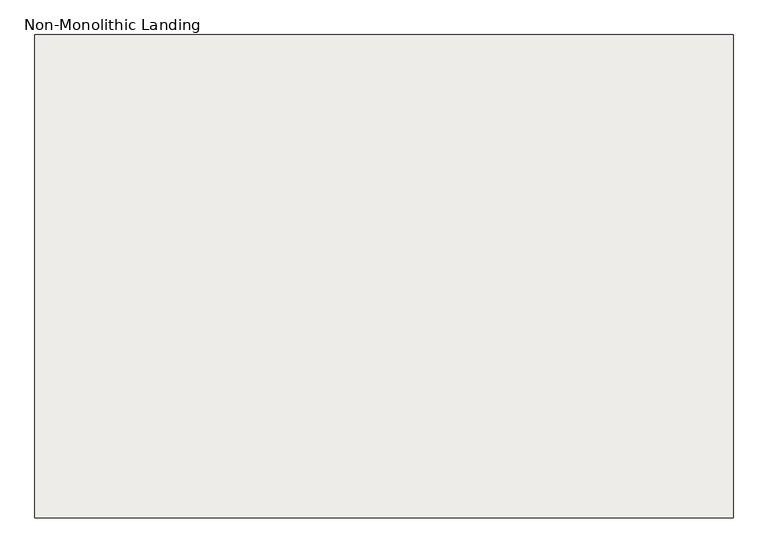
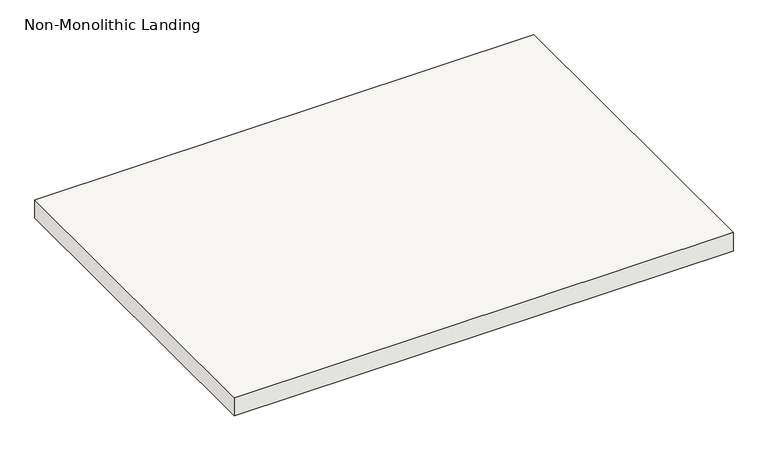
"""IFC4 building model written with IfcOpenShell, lengths in millimetres: slab geometry, Non-Monolithic Landing."""

import ifcopenshell
import ifcopenshell.guid

model = None  # the IFC model being written
_history = None  # IfcOwnerHistory: only IFC2X3 demands one
_inside = {}  # id of a spatial element -> (the spatial element, [elements in it])
_under = {}  # id of a project, library or spatial element -> (it, [spatial elements below it])
_declared = {}  # id of a project -> (the project, [libraries it declares])
_typed = {}  # id of a type object -> (the type object, [elements of that type])
_made_of = {}  # id of a material, layer set ... -> (it, [elements and type objects made of it])


def new_model(schema):
    """Start an empty IFC model of exactly this schema.

    Asked for "IFC4X3", IfcOpenShell would pick the latest addendum, in which some entities
    have other attributes; the version numbers below select the first issue.
    IFC2X3 requires an IfcOwnerHistory on every rooted entity: one is made here for all.
    """
    global model, _history
    if schema == "IFC4X3":
        model = ifcopenshell.file(schema_version=(4, 3, 0, 0))
    else:
        model = ifcopenshell.file(schema=schema)
    _inside.clear()
    _under.clear()
    _declared.clear()
    _typed.clear()
    _made_of.clear()
    _history = None
    if model.schema == "IFC2X3":
        org = make("IfcOrganization", Name="unknown")
        user = make(
            "IfcPersonAndOrganization",
            ThePerson=make("IfcPerson", FamilyName="unknown"),
            TheOrganization=org,
        )
        app = make(
            "IfcApplication",
            ApplicationDeveloper=org,
            Version="unknown",
            ApplicationFullName="unknown",
            ApplicationIdentifier="unknown",
        )
        _history = make(
            "IfcOwnerHistory",
            OwningUser=user,
            OwningApplication=app,
            ChangeAction="ADDED",
            CreationDate=0,
        )
    return model


def make(cls, **values):
    """One entity of the class cls with the attributes given. An attribute that is None is left unset."""
    return model.create_entity(
        cls, **{name: value for name, value in values.items() if value is not None}
    )


def rooted(cls, **values):
    """An entity with a GlobalId (a new one), such as an element, a storey or a relation."""
    return make(cls, GlobalId=ifcopenshell.guid.new(), OwnerHistory=_history, **values)


def si_unit(unit_type, name, prefix=None):
    """IfcSIUnit, for example si_unit("LENGTHUNIT", "METRE", prefix="MILLI")."""
    return make("IfcSIUnit", UnitType=unit_type, Prefix=prefix, Name=name)


def assignment(units):
    """IfcUnitAssignment: the units of a project."""
    return None if units is None else make("IfcUnitAssignment", Units=units)


def point(xyz):
    """IfcCartesianPoint."""
    return None if xyz is None else make("IfcCartesianPoint", Coordinates=xyz)


def direction(xyz):
    """IfcDirection."""
    return None if xyz is None else make("IfcDirection", DirectionRatios=xyz)


def frame(location, z_axis=None, x_axis=None):
    """IfcAxis2Placement3D, a coordinate frame: its origin and axes. An axis left out is left unset."""
    return make(
        "IfcAxis2Placement3D",
        Location=point(location),
        Axis=direction(z_axis),
        RefDirection=direction(x_axis),
    )


def origin():
    """The frame at (0, 0, 0) with its axes left unset."""
    return frame((0.0, 0.0, 0.0))


def place(relative_to, where):
    """IfcLocalPlacement: puts the frame where relative to a parent placement (None: the world)."""
    return make(
        "IfcLocalPlacement", PlacementRelTo=relative_to, RelativePlacement=where
    )


def context(
    kind, dimensions, precision=None, world=None, true_north=None, identifier=None
):
    """IfcGeometricRepresentationContext, for example the 3D "Model" context."""
    return make(
        "IfcGeometricRepresentationContext",
        ContextIdentifier=identifier,
        ContextType=kind,
        CoordinateSpaceDimension=dimensions,
        Precision=precision,
        WorldCoordinateSystem=world,
        TrueNorth=true_north,
    )


def project(units=None, contexts=None):
    """IfcProject with its units and contexts."""
    return rooted(
        "IfcProject",
        Name="project",
        RepresentationContexts=contexts,
        UnitsInContext=assignment(units),
    )


def spatial(cls, under=None, at=None, **own):
    """A site, building, storey or space (cls), placed at a placement, below another one or the project."""
    s = rooted(cls, ObjectPlacement=at, **own)
    if under is not None:
        _under.setdefault(under.id(), (under, []))[1].append(s)
    return s


def polyline(points):
    """IfcPolyline through the points."""
    return make("IfcPolyline", Points=[point(p) for p in points])


def outline(outer, holes=None, kind="AREA"):
    """IfcArbitraryClosedProfileDef: a profile drawn as a closed curve; with holes, ...WithVoids."""
    if holes is None:
        return make("IfcArbitraryClosedProfileDef", ProfileType=kind, OuterCurve=outer)
    return make(
        "IfcArbitraryProfileDefWithVoids",
        ProfileType=kind,
        OuterCurve=outer,
        InnerCurves=holes,
    )


def extrude(swept, where, along, depth):
    """IfcExtrudedAreaSolid: the profile swept, set in the frame where, extruded along a direction by depth."""
    return make(
        "IfcExtrudedAreaSolid",
        SweptArea=swept,
        Position=where,
        ExtrudedDirection=direction(along),
        Depth=depth,
    )


def shape(context_of_items, identifier, shape_type, items):
    """IfcShapeRepresentation: the items that make up one representation, for example the "Body"."""
    return make(
        "IfcShapeRepresentation",
        ContextOfItems=context_of_items,
        RepresentationIdentifier=identifier,
        RepresentationType=shape_type,
        Items=items,
    )


def source(mapping_origin, context_of_items, identifier, shape_type, items):
    """IfcRepresentationMap: a shape defined once, which mapped items show again and again."""
    return make(
        "IfcRepresentationMap",
        MappingOrigin=mapping_origin,
        MappedRepresentation=shape(context_of_items, identifier, shape_type, items),
    )


def transform(
    local_origin,
    x_axis=None,
    y_axis=None,
    z_axis=None,
    scale=None,
    scale2=None,
    scale3=None,
    uniform=True,
):
    """IfcCartesianTransformationOperator3D, or its non-uniform kind. x_axis, y_axis, z_axis: its Axis1, 2, 3."""
    if uniform:
        return make(
            "IfcCartesianTransformationOperator3D",
            Axis1=direction(x_axis),
            Axis2=direction(y_axis),
            LocalOrigin=point(local_origin),
            Scale=scale,
            Axis3=direction(z_axis),
        )
    return make(
        "IfcCartesianTransformationOperator3DnonUniform",
        Axis1=direction(x_axis),
        Axis2=direction(y_axis),
        LocalOrigin=point(local_origin),
        Scale=scale,
        Axis3=direction(z_axis),
        Scale2=scale2,
        Scale3=scale3,
    )


def mapped(mapping_source, mapping_target):
    """IfcMappedItem: shows the shape of a source again, moved by a transform."""
    return make(
        "IfcMappedItem", MappingSource=mapping_source, MappingTarget=mapping_target
    )


def made_of(thing, what):
    """Note that an element or type object is made of a material, layer set ...; save() writes the relation."""
    if what is not None:
        _made_of.setdefault(what.id(), (what, []))[1].append(thing)
    return thing


def element(
    cls,
    number,
    at=None,
    inside=None,
    cuts=None,
    type_object=None,
    material=None,
    context=None,
    identifier="Body",
    shape_type=None,
    held_by="IfcProductDefinitionShape",
    body=None,
    shapes=None,
    **own,
):
    """One element of the class cls, such as IfcWall. Its Tag is "e" and its number.

    at: its placement. inside: the storey or other place that contains it. cuts: it is an
    opening in that element (IfcRelVoidsElement). A single representation is given by context,
    identifier, shape_type and body (its items); several are given by shapes. held_by: the class
    of the entity that holds the representations. save() writes the other relations.
    """
    e = rooted(cls, Tag="e%d" % number, ObjectPlacement=at, **own)
    if body is not None:
        shapes = [shape(context, identifier, shape_type, body)]
    if shapes is not None:
        e.Representation = make(held_by, Representations=shapes)
    if inside is not None:
        _inside.setdefault(inside.id(), (inside, []))[1].append(e)
    if cuts is not None:
        rooted(
            "IfcRelVoidsElement", RelatingBuildingElement=cuts, RelatedOpeningElement=e
        )
    if type_object is not None:
        _typed.setdefault(type_object.id(), (type_object, []))[1].append(e)
    return made_of(e, material)


def aggregate(whole, parts):
    """IfcRelAggregates: a whole, such as a stair, and the parts it consists of."""
    return rooted("IfcRelAggregates", RelatingObject=whole, RelatedObjects=parts)


def save(model, path):
    """Write the relations noted so far, then the file.

    IfcRelAggregates (storeys below a building ...), IfcRelContainedInSpatialStructure (elements
    in a storey), IfcRelDefinesByType, IfcRelAssociatesMaterial and IfcRelDeclares: one each for
    every whole, place, type object, material and project.
    """
    for whole, parts in _under.values():
        aggregate(whole, parts)
    for where, things in _inside.values():
        rooted(
            "IfcRelContainedInSpatialStructure",
            RelatedElements=things,
            RelatingStructure=where,
        )
    for kind, things in _typed.values():
        rooted("IfcRelDefinesByType", RelatedObjects=things, RelatingType=kind)
    for what, things in _made_of.values():
        rooted("IfcRelAssociatesMaterial", RelatedObjects=things, RelatingMaterial=what)
    for by, libraries in _declared.values():
        rooted("IfcRelDeclares", RelatingContext=by, RelatedDefinitions=libraries)
    model.write(path)


def non_monolithic_landing_ada5ac22(model_context):
    return source(origin(), model_context, "Body", "SweptSolid", [
        extrude(outline(polyline([(87853.8048368, -17954.2990002), (89174.6048368, -17954.2990002), (89174.6048368, -18868.6990002), (87853.8048368, -18868.6990002), (87853.8048368, -17954.2990002)])), frame((0.0, 0.0, 2126.3428571), z_axis=(0.0, 0.0, 1.0), x_axis=(1.0, 0.0, 0.0)), (0.0, 0.0, 1.0), 50.8),
    ])


if __name__ == "__main__":
    model = new_model("IFC4")
    model_context = context("Model", 3, world=origin())
    ifc_project = project(units=[si_unit("LENGTHUNIT", "METRE", prefix="MILLI")], contexts=[model_context])
    site = spatial("IfcSite", under=ifc_project)
    building = spatial("IfcBuilding", under=site)
    placement = place(None, origin())
    non_monolithic_landing_shape = non_monolithic_landing_ada5ac22(model_context)
    element("IfcSlab", 1, ObjectType="Non-Monolithic Landing", at=placement, inside=building, context=model_context, shape_type="MappedRepresentation", body=[
        mapped(non_monolithic_landing_shape, transform((0.0, 0.0, 0.0), x_axis=(1.0, 0.0, 0.0), y_axis=(0.0, 1.0, 0.0), z_axis=(0.0, 0.0, 1.0))),
    ])
    save(model, "model.ifc")
